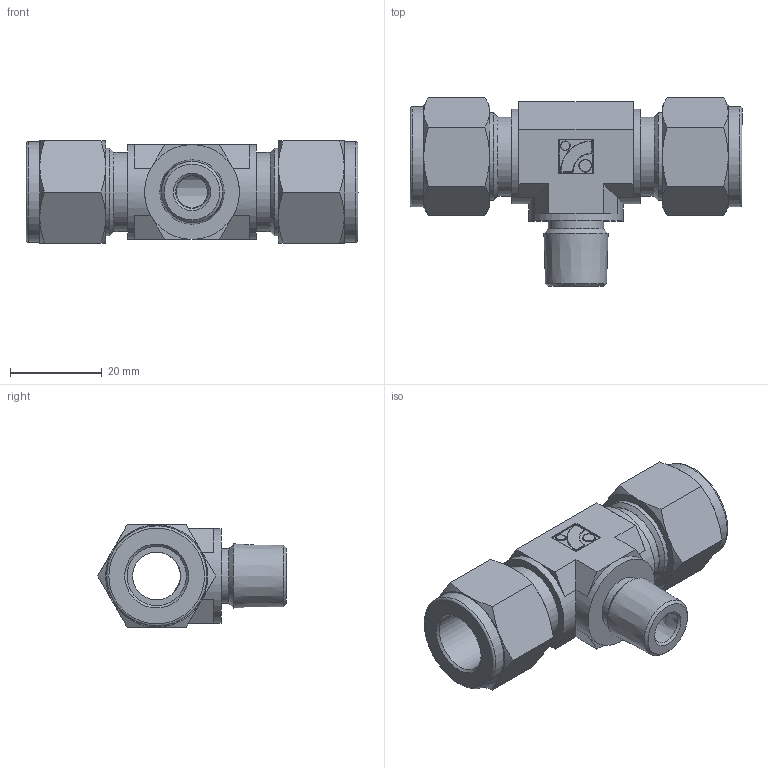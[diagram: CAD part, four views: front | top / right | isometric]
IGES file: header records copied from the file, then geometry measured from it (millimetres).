
Global section: file name: No Iges File Name specified; native system: Autodesk Inventor 2012; preprocessor: AutoDesk Inventor Iges Exporter R2012; author: 硅己绕,, ; organization: 11; date: 20150815.155216; units: millimetre
Bounding box: 72.2 x 41.03 x 22.22 mm (x, y, z)
Volume: 21433.2 mm3; surface area: 10433.5 mm2
Topology: 1 solids, 1 shells, 146 faces, 337 edges, 205 vertices
Faces by surface type: plane 62, cone 29, cylinder 23, revolution 22, torus 6, sphere 4
Full cylindrical faces by diameter (mm): 2.006 x1, 2.675 x1, 12 x1, 17.2 x2, 19.05 x2, 20.6 x3, 21.8 x2
